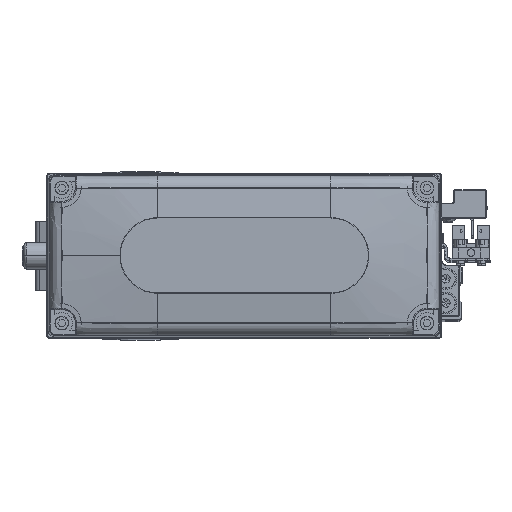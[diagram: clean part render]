
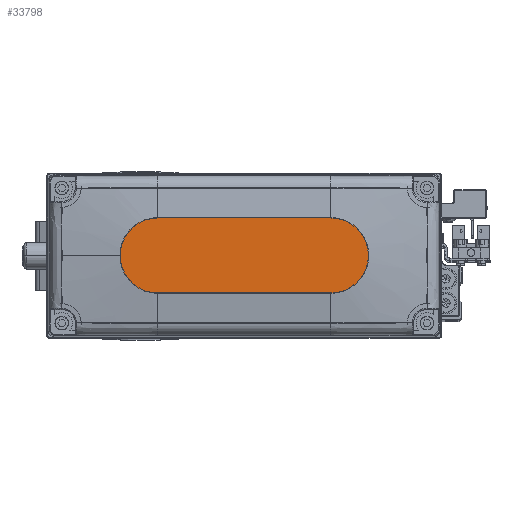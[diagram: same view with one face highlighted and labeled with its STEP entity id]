
A CAD part, top view. The second image highlights one B-rep face of the part: STEP entity #33798.
In plain terms, the highlighted planar face has unit normal (0, 0, 1).
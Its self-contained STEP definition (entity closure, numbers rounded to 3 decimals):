
#301 = VERTEX_POINT ( 'NONE', #28090 ) ;
#644 = CARTESIAN_POINT ( 'NONE',  ( -32., -14., 35. ) ) ;
#836 = AXIS2_PLACEMENT_3D ( 'NONE', #14883, #28823, #42744 ) ;
#2905 = EDGE_LOOP ( 'NONE', ( #24778, #43421, #7035, #4686, #7602 ) ) ;
#3007 = DIRECTION ( 'NONE',  ( -1., 0., 0. ) ) ;
#4686 = ORIENTED_EDGE ( 'NONE', *, *, #39777, .T. ) ;
#7034 = VERTEX_POINT ( 'NONE', #27413 ) ;
#7035 = ORIENTED_EDGE ( 'NONE', *, *, #39821, .T. ) ;
#7602 = ORIENTED_EDGE ( 'NONE', *, *, #28059, .T. ) ;
#8312 = DIRECTION ( 'NONE',  ( 0., 0., 1. ) ) ;
#8575 = VECTOR ( 'NONE', #40318, 1000. ) ;
#9454 = DIRECTION ( 'NONE',  ( 0., 0., 1. ) ) ;
#10746 = DIRECTION ( 'NONE',  ( 0., 0., 1. ) ) ;
#10773 = CIRCLE ( 'NONE', #36310, 14. ) ;
#11501 = VERTEX_POINT ( 'NONE', #33465 ) ;
#12442 = LINE ( 'NONE', #26381, #8575 ) ;
#14173 = FACE_OUTER_BOUND ( 'NONE', #2905, .T. ) ;
#14242 = EDGE_CURVE ( 'NONE', #301, #7034, #20373, .T. ) ;
#14883 = CARTESIAN_POINT ( 'NONE',  ( 32., 0., 35. ) ) ;
#16369 = EDGE_CURVE ( 'NONE', #7034, #27230, #44491, .T. ) ;
#16611 = CARTESIAN_POINT ( 'NONE',  ( 32., -14., 35. ) ) ;
#20373 = LINE ( 'NONE', #34315, #26418 ) ;
#20540 = CIRCLE ( 'NONE', #836, 14. ) ;
#22274 = DIRECTION ( 'NONE',  ( 1., 0., 0. ) ) ;
#23404 = DIRECTION ( 'NONE',  ( 1., 0., 0. ) ) ;
#24694 = DIRECTION ( 'NONE',  ( 1., 0., 0. ) ) ;
#24778 = ORIENTED_EDGE ( 'NONE', *, *, #14242, .T. ) ;
#24800 = AXIS2_PLACEMENT_3D ( 'NONE', #40775, #9454, #23404 ) ;
#26381 = CARTESIAN_POINT ( 'NONE',  ( -32., -14., 35. ) ) ;
#26418 = VECTOR ( 'NONE', #3007, 1000. ) ;
#27230 = VERTEX_POINT ( 'NONE', #644 ) ;
#27413 = CARTESIAN_POINT ( 'NONE',  ( -32., 14., 35. ) ) ;
#28059 = EDGE_CURVE ( 'NONE', #11501, #301, #20540, .T. ) ;
#28090 = CARTESIAN_POINT ( 'NONE',  ( 32., 14., 35. ) ) ;
#28112 = PLANE ( 'NONE',  #35804 ) ;
#28823 = DIRECTION ( 'NONE',  ( 0., 0., 1. ) ) ;
#33465 = CARTESIAN_POINT ( 'NONE',  ( 46., 0., 35. ) ) ;
#33798 = ADVANCED_FACE ( 'NONE', ( #14173 ), #28112, .T. ) ;
#34315 = CARTESIAN_POINT ( 'NONE',  ( -32., 14., 35. ) ) ;
#35804 = AXIS2_PLACEMENT_3D ( 'NONE', #42044, #10746, #24694 ) ;
#36310 = AXIS2_PLACEMENT_3D ( 'NONE', #39626, #8312, #22274 ) ;
#39626 = CARTESIAN_POINT ( 'NONE',  ( 32., 0., 35. ) ) ;
#39777 = EDGE_CURVE ( 'NONE', #44424, #11501, #10773, .T. ) ;
#39821 = EDGE_CURVE ( 'NONE', #27230, #44424, #12442, .T. ) ;
#40318 = DIRECTION ( 'NONE',  ( 1., 0., 0. ) ) ;
#40775 = CARTESIAN_POINT ( 'NONE',  ( -32., 0., 35. ) ) ;
#42044 = CARTESIAN_POINT ( 'NONE',  ( 0., 0., 35. ) ) ;
#42744 = DIRECTION ( 'NONE',  ( 1., 0., 0. ) ) ;
#43421 = ORIENTED_EDGE ( 'NONE', *, *, #16369, .T. ) ;
#44424 = VERTEX_POINT ( 'NONE', #16611 ) ;
#44491 = CIRCLE ( 'NONE', #24800, 14. ) ;
